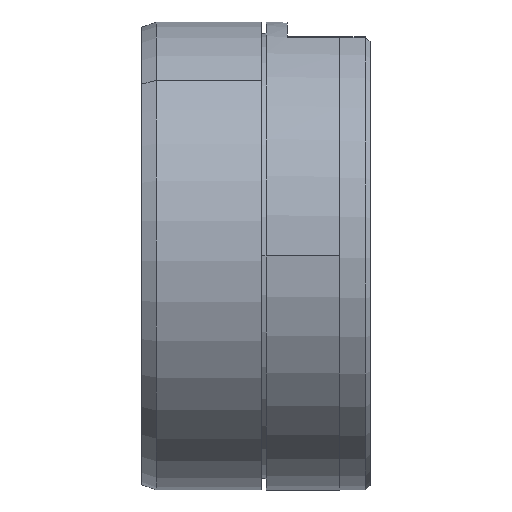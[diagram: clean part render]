
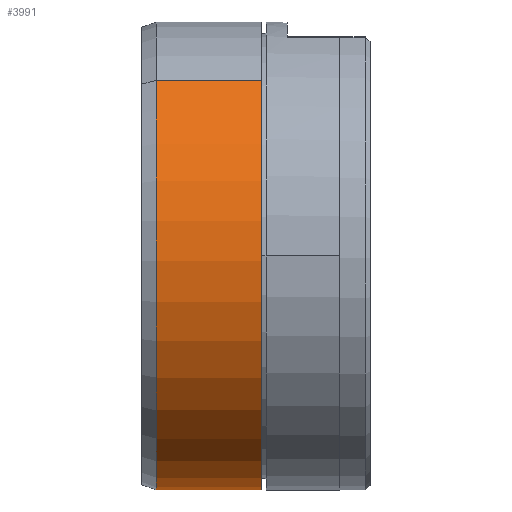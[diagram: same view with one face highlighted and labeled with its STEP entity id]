
A CAD part, front view. The second image highlights one B-rep face of the part: STEP entity #3991.
In plain terms, the highlighted cylindrical face has radius 24.5 mm (diameter 49 mm), a partial arc.
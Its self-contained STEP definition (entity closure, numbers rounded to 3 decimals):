
#1068 = ORIENTED_EDGE ( 'NONE', *, *, #36253, .T. ) ;
#2870 = CARTESIAN_POINT ( 'NONE',  ( -65.332, 0., 0. ) ) ;
#3934 = ORIENTED_EDGE ( 'NONE', *, *, #34894, .F. ) ;
#3991 = ADVANCED_FACE ( 'NONE', ( #22303 ), #33123, .T. ) ;
#7164 = CARTESIAN_POINT ( 'NONE',  ( 17.5, 16.175, -18.402 ) ) ;
#7612 = LINE ( 'NONE', #49181, #32119 ) ;
#12976 = ORIENTED_EDGE ( 'NONE', *, *, #22446, .F. ) ;
#14022 = DIRECTION ( 'NONE',  ( 1., 0., 0. ) ) ;
#14225 = CARTESIAN_POINT ( 'NONE',  ( 6.5, 16.175, -18.402 ) ) ;
#14492 = CARTESIAN_POINT ( 'NONE',  ( -65.332, -16.175, 18.402 ) ) ;
#15046 = CIRCLE ( 'NONE', #25066, 24.5 ) ;
#15194 = DIRECTION ( 'NONE',  ( 1., 0., 0. ) ) ;
#16555 = ORIENTED_EDGE ( 'NONE', *, *, #31648, .T. ) ;
#17711 = CARTESIAN_POINT ( 'NONE',  ( 6.5, -16.175, 18.402 ) ) ;
#20121 = DIRECTION ( 'NONE',  ( -1., 0., 0. ) ) ;
#22303 = FACE_OUTER_BOUND ( 'NONE', #50266, .T. ) ;
#22446 = EDGE_CURVE ( 'NONE', #54597, #46251, #7612, .T. ) ;
#24730 = DIRECTION ( 'NONE',  ( 0., 0.66, -0.751 ) ) ;
#25066 = AXIS2_PLACEMENT_3D ( 'NONE', #42725, #15194, #24730 ) ;
#25492 = VERTEX_POINT ( 'NONE', #17711 ) ;
#28154 = DIRECTION ( 'NONE',  ( 0., 0.66, -0.751 ) ) ;
#30285 = DIRECTION ( 'NONE',  ( -1., 0., 0. ) ) ;
#30339 = CARTESIAN_POINT ( 'NONE',  ( 17.5, -16.175, 18.402 ) ) ;
#31648 = EDGE_CURVE ( 'NONE', #33183, #25492, #39220, .T. ) ;
#32119 = VECTOR ( 'NONE', #20121, 1000. ) ;
#33123 = CYLINDRICAL_SURFACE ( 'NONE', #35526, 24.5 ) ;
#33183 = VERTEX_POINT ( 'NONE', #30339 ) ;
#34894 = EDGE_CURVE ( 'NONE', #33183, #54597, #15046, .T. ) ;
#35526 = AXIS2_PLACEMENT_3D ( 'NONE', #2870, #30285, #40021 ) ;
#35558 = VECTOR ( 'NONE', #51050, 1000. ) ;
#36253 = EDGE_CURVE ( 'NONE', #25492, #46251, #59116, .T. ) ;
#39220 = LINE ( 'NONE', #14492, #35558 ) ;
#40021 = DIRECTION ( 'NONE',  ( 0., -0.66, 0.751 ) ) ;
#42725 = CARTESIAN_POINT ( 'NONE',  ( 17.5, 0., 0. ) ) ;
#46251 = VERTEX_POINT ( 'NONE', #14225 ) ;
#47152 = AXIS2_PLACEMENT_3D ( 'NONE', #59822, #14022, #28154 ) ;
#49181 = CARTESIAN_POINT ( 'NONE',  ( -65.332, 16.175, -18.402 ) ) ;
#50266 = EDGE_LOOP ( 'NONE', ( #12976, #3934, #16555, #1068 ) ) ;
#51050 = DIRECTION ( 'NONE',  ( -1., 0., 0. ) ) ;
#54597 = VERTEX_POINT ( 'NONE', #7164 ) ;
#59116 = CIRCLE ( 'NONE', #47152, 24.5 ) ;
#59822 = CARTESIAN_POINT ( 'NONE',  ( 6.5, 0., 0. ) ) ;
